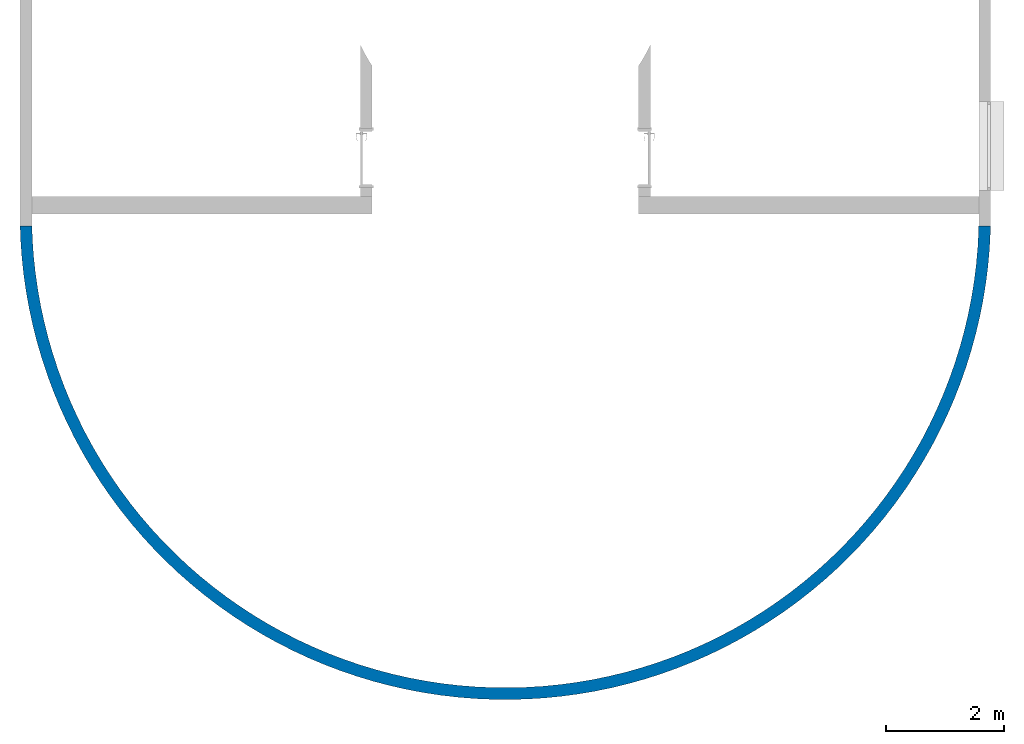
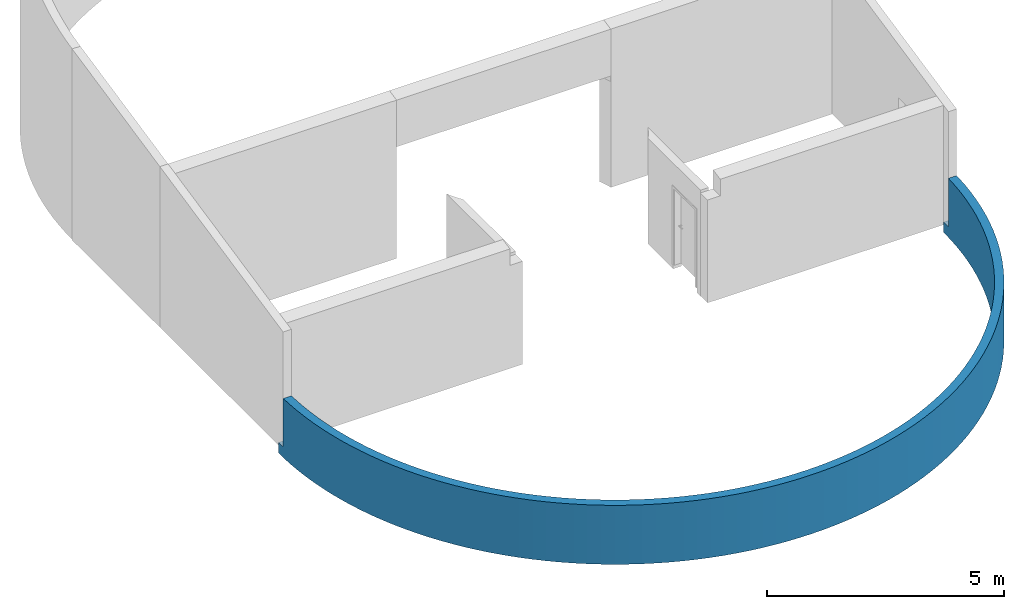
# One storey, part 3 of 7: 1 wall.
"""IFC4 building model written with IfcOpenShell, lengths in millimetres."""

from ifc_helpers import new_model, entity, si_unit, converted_unit, derived_unit, direction, frame, origin_with_axes, place, context, subcontext, project, spatial, polygons, material, constituent, constituent_set, type_object, element, save


model = new_model("IFC4")

# Units and contexts
model_context = context("Model", 3, precision=0.01, world=origin_with_axes(), true_north=direction((0.0, 1.0)))
body_context = subcontext(model_context, "Body", "Model", "MODEL_VIEW")
ifc_project = project(units=[si_unit("LENGTHUNIT", "METRE", prefix="MILLI"), si_unit("AREAUNIT", "SQUARE_METRE"), si_unit("VOLUMEUNIT", "CUBIC_METRE"), converted_unit("PLANEANGLEUNIT", "DEGREE", entity("IfcPlaneAngleMeasure", 0.0174532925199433), si_unit("PLANEANGLEUNIT", "RADIAN"), dimensions=[0, 0, 0, 0, 0, 0, 0]), converted_unit("TIMEUNIT", "Year", entity("IfcTimeMeasure", 31557600.0), si_unit("TIMEUNIT", "SECOND"), dimensions=[0, 0, 1, 0, 0, 0, 0]), si_unit("MASSUNIT", "GRAM", prefix="KILO"), si_unit("THERMODYNAMICTEMPERATUREUNIT", "DEGREE_CELSIUS"), si_unit("LUMINOUSINTENSITYUNIT", "LUMEN"), si_unit("ENERGYUNIT", "JOULE", prefix="MEGA"), derived_unit("THERMALCONDUCTANCEUNIT", [(si_unit("POWERUNIT", "WATT"), 1), (si_unit("LENGTHUNIT", "METRE"), -1), (si_unit("THERMODYNAMICTEMPERATUREUNIT", "KELVIN"), -1)]), derived_unit("SPECIFICHEATCAPACITYUNIT", [(si_unit("ENERGYUNIT", "JOULE"), 1), (si_unit("MASSUNIT", "GRAM", prefix="KILO"), -1), (si_unit("THERMODYNAMICTEMPERATUREUNIT", "KELVIN"), -1)]), derived_unit("MASSDENSITYUNIT", [(si_unit("MASSUNIT", "GRAM", prefix="KILO"), 1), (si_unit("VOLUMEUNIT", "CUBIC_METRE"), -1)])], contexts=[model_context])

# Site, building, storey
site_placement = place(None, origin_with_axes())
site = spatial("IfcSite", under=ifc_project, at=site_placement, Name="Exteriér", CompositionType="ELEMENT")
building_placement = place(site_placement, origin_with_axes())
building = spatial("IfcBuilding", under=site, at=building_placement, Name="Univerzitní lezecké centrum", CompositionType="ELEMENT")
storey_placement = place(building_placement, frame((0.0, 0.0, 9600.000000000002), z_axis=(0.0, 0.0, 1.0), x_axis=(1.0, 0.0, 0.0)))
storey = spatial("IfcBuildingStorey", under=building, at=storey_placement, Name="4.NP", CompositionType="ELEMENT", Elevation=9600.0)

# Wall
ifc_material = material(Name="Beton vyztužený - vnější svislé kce")
ifc_constituent = constituent(ifc_material, Name="Beton vyztužený - vnější svislé kce")
ifc_constituent_set = constituent_set(constituents=[ifc_constituent], Name="!Vnější betonová stěna 200 mm - atika")
wall_type = type_object("IfcWallType", Name="!Vnější betonová stěna 200 mm - atika 200", PredefinedType="NOTDEFINED")
wall_placement = place(storey_placement, frame((-5550.148351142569, -299.9999999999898, -320.0000000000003), z_axis=(0.0, 0.0, 1.0), x_axis=(0.0, -1.0, 0.0)))
element("IfcWall", 1, at=wall_placement, inside=storey, type_object=wall_type, material=ifc_constituent_set, Name="St01*", PredefinedType="NOTDEFINED", context=body_context, shape_type="Tessellation", body=[
    polygons([(425.8444740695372, 10.07993160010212, 1520.0), (425.8444740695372, 10.07993160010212, 0.0), (199.999999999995, 2.05948510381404, 0.0), (199.999999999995, 2.059485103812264, 1520.0), (709.1445868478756, 30.22709417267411, 1520.0), (709.1445868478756, 30.22709417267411, 0.0), (145.5579959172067, -199.9999999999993, 0.0), (142.0078008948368, 1.147407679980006e-05, 0.0), (199.9999999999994, 8.656680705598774e-06, 0.0), (436.4905859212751, -189.6680701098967, 0.0), (199.9999999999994, 8.656680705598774e-06, 269.0000000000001), (199.9999999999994, 8.656680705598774e-06, 1520.0), (436.4905859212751, -189.6680701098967, 1520.0), (199.9999999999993, -198.0665934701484, 1520.0), (726.8732015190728, -169.0172284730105, 1520.0), (991.5511835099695, 60.4161024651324, 1520.0), (991.5511835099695, 60.4161024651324, 0.0), (726.8732015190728, -169.0172284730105, 0.0), (0.0, -199.9999999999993, 0.0), (0.0, 0.0, 0.0), (142.0078008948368, 1.147407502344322e-05, 269.0000000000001), (199.9999999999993, -198.0665934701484, 269.0000000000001), (145.5579959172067, -200.0000000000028, 269.0000000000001), (1016.339963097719, -138.0734949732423, 1520.0), (1272.708434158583, 100.6089185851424, 1520.0), (1272.708434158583, 100.6089185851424, 0.0), (1016.339963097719, -138.0734949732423, 0.0), (-1.117589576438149e-06, -200.0000000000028, 269.0000000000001), (0.0, -199.9999999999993, 199.9999999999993), (0.0, 0.0, 199.9999999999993), (-1.117589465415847e-06, 0.0, 269.0000000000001), (1304.52614501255, -96.87585845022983, 1520.0), (1552.2620830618, 150.7548999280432, 1520.0), (1552.2620830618, 150.7548999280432, 0.0), (1304.52614501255, -96.87585845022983, 0.0), (1591.068635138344, -45.47622757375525, 1520.0), (1829.859895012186, 210.79086298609, 1520.0), (1829.859895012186, 210.79086298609, 0.0), (1591.068635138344, -45.47622757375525, 0.0), (1875.606392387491, 16.06063456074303, 1520.0), (2105.152099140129, 280.6411629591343, 1520.0), (2105.152099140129, 280.6411629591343, 0.0), (1875.606392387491, 16.06063456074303, 0.0), (2157.780901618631, 87.65719203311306, 1520.0), (2377.791829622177, 360.2177890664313, 1520.0), (2377.791829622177, 360.2177890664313, 0.0), (2157.780901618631, 87.65719203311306, 0.0), (2437.236625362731, 169.223233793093, 1520.0), (2647.435562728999, 449.4204754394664, 1520.0), (2647.435562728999, 449.4204754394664, 0.0), (2437.236625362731, 169.223233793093, 0.0), (2713.621451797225, 260.6559873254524, 1520.0), (2913.743549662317, 548.1368274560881, 1520.0), (2913.743549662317, 548.1368274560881, 0.0), (2713.621451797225, 260.6559873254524, 0.0), (2986.587138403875, 361.8402481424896, 1520.0), (3176.380244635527, 656.2424633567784, 1520.0), (3176.380244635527, 656.2424633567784, 0.0), (2986.587138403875, 361.8402481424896, 0.0), (3255.789750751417, 472.6485249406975, 1520.0), (3435.014727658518, 773.6011709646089, 1520.0), (3435.014727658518, 773.6011709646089, 0.0), (3255.789750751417, 472.6485249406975, 0.0), (3520.890095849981, 592.941200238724, 1520.0), (3689.321121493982, 900.0650793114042, 1520.0), (3689.321121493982, 900.0650793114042, 0.0), (3520.890095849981, 592.941200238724, 0.0), (3781.55414953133, 722.5667062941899, 1520.0), (3938.979002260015, 1035.474844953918, 1520.0), (3938.979002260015, 1035.474844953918, 0.0), (3781.55414953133, 722.5667062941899, 0.0), (4037.453477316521, 861.3617160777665, 1520.0), (4183.673803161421, 1179.659852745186, 1520.0), (4183.673803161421, 1179.659852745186, 0.0), (4037.453477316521, 861.3617160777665, 0.0), (4288.265648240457, 1009.151349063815, 1520.0), (4423.097210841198, 1332.438430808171, 1520.0), (4423.097210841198, 1332.438430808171, 0.0), (4288.265648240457, 1009.151349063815, 0.0), (4533.674641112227, 1165.749391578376, 1520.0), (4656.947553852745, 1493.618079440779, 1520.0), (4656.947553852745, 1493.618079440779, 0.0), (4533.674641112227, 1165.749391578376, 0.0), (4773.371242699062, 1330.958531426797, 1520.0), (4884.930182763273, 1662.995713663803, 1520.0), (4884.930182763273, 1662.995713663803, 0.0), (4773.371242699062, 1330.958531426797, 0.0), (5007.053437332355, 1504.570606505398, 1520.0), (5106.757841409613, 1840.357919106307, 1520.0), (5106.757841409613, 1840.357919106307, 0.0), (5007.053437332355, 1504.570606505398, 0.0), (5234.426787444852, 1686.366867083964, 1520.0), (5322.151028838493, 2025.481220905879, 1520.0), (5322.151028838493, 2025.481220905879, 0.0), (5234.426787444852, 1686.366867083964, 0.0), (5455.204804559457, 1876.118251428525, 1520.0), (5530.838351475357, 2218.132365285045, 1520.0), (5530.838351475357, 2218.132365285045, 0.0), (5455.204804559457, 1876.118251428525, 0.0), (5669.109310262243, 2073.585674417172, 1520.0), (5732.556865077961, 2418.068613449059, 1520.0), (5732.556865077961, 2418.068613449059, 0.0), (5669.109310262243, 2073.585674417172, 0.0), (5875.870786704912, 2278.520328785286, 1520.0), (5927.052406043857, 2625.038047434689, 1520.0), (5927.052406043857, 2625.038047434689, 0.0), (5875.870786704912, 2278.520328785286, 0.0), (6075.228716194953, 2490.663998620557, 1520.0), (6114.079911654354, 2838.779887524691, 1520.0), (6114.079911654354, 2838.779887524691, 0.0), (6075.228716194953, 2490.663998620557, 0.0), (6266.931909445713, 2709.749384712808, 1520.0), (6293.403728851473, 3059.024820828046, 1520.0), (6293.403728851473, 3059.024820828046, 0.0), (6266.931909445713, 2709.749384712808, 0.0), (6450.738822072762, 2935.500441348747, 1520.0), (6464.797911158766, 3285.495340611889, 1520.0), (6464.797911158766, 3285.495340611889, 0.0), (6450.738822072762, 2935.500441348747, 0.0), (6626.417858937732, 3167.632724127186, 1520.0), (6628.04650337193, 3517.906095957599, 1520.0), (6628.04650337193, 3517.906095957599, 0.0), (6626.417858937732, 3167.632724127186, 0.0), (6793.747665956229, 3405.853748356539, 1520.0), (6782.943813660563, 3755.964251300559, 1520.0), (6782.943813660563, 3755.964251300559, 0.0), (6793.747665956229, 3405.853748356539, 0.0), (6952.517409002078, 3649.863357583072, 1520.0), (6929.294672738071, 3999.369855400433, 1520.0), (6929.294672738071, 3999.369855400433, 0.0), (6952.517409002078, 3649.863357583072, 0.0), (7102.527039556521, 3899.354101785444, 1520.0), (7066.914679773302, 4247.816219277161, 1520.0), (7066.914679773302, 4247.816219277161, 0.0), (7102.527039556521, 3899.354101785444, 0.0), (7243.587546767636, 4154.01162475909, 1520.0), (7195.63043473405, 4500.990302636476, 1520.0), (7195.63043473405, 4500.990302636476, 0.0), (7243.587546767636, 4154.01162475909, 0.0), (7375.521195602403, 4413.515060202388, 1520.0), (7315.279756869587, 4758.573108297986, 1520.0), (7315.279756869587, 4758.573108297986, 0.0), (7375.521195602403, 4413.515060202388, 0.0), (7498.161750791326, 4677.537436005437, 1520.0), (7425.711889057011, 5020.240084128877, 1520.0), (7425.711889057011, 5020.240084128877, 0.0), (7498.161750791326, 4677.537436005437, 0.0), (7611.354686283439, 4945.7460862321, 1520.0), (7526.787687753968, 5285.661531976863, 1520.0), (7526.787687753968, 5285.661531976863, 0.0), (7611.354686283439, 4945.7460862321, 0.0), (7714.957379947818, 5217.803070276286, 1520.0), (7618.379798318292, 5554.503023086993, 1520.0), (7618.379798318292, 5554.503023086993, 0.0), (7714.957379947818, 5217.803070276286, 0.0), (7808.839293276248, 5493.365598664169, 1520.0), (7700.372815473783, 5826.425819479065, 1520.0), (7700.372815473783, 5826.425819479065, 0.0), (7808.839293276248, 5493.365598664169, 0.0), (7892.882135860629, 5772.086464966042, 1520.0), (7772.663428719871, 6101.087300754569, 1520.0), (7772.663428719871, 6101.087300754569, 0.0), (7892.882135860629, 5772.086464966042, 0.0), (7966.980014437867, 6053.614483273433, 1520.0), (7835.160552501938, 6378.141395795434, 1520.0), (7835.160552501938, 6378.141395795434, 0.0), (7966.980014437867, 6053.614483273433, 0.0), (8031.039566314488, 6337.594930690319, 1520.0), (7887.785440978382, 6657.239018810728, 1520.0), (7887.785440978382, 6657.239018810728, 0.0), (8031.039566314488, 6337.594930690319, 0.0), (8084.980077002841, 6623.669994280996, 1520.0), (7930.471787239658, 6938.028509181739, 1520.0), (7930.471787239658, 6938.028509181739, 0.0), (8084.980077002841, 6623.669994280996, 0.0), (8128.733581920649, 6911.479221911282, 1520.0), (7963.165806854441, 7220.15607455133, 1520.0), (7963.165806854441, 7220.15607455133, 0.0), (8128.733581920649, 6911.479221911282, 0.0), (8162.244952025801, 7200.659976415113, 1520.0), (7985.826305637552, 7503.266236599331, 1520.0), (7985.826305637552, 7503.266236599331, 0.0), (8162.244952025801, 7200.659976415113, 0.0), (8185.471963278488, 7490.847892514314, 1520.0), (7998.424731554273, 7787.002278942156, 1520.0), (7998.424731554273, 7787.002278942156, 0.0), (8185.471963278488, 7490.847892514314, 0.0), (8198.385349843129, 7781.677335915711, 1520.0), (8000.945210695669, 8071.006696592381, 1520.0), (8000.945210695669, 8071.006696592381, 0.0), (8198.385349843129, 7781.677335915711, 0.0), (8200.96884096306, 8072.78186400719, 1520.0), (7993.384567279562, 8354.921646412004, 1520.0), (7993.384567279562, 8354.921646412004, 0.0), (8200.96884096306, 8072.78186400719, 0.0), (8193.21918146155, 8363.794687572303, 1520.0), (7975.752327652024, 8638.389397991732, 1520.0), (7975.752327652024, 8638.389397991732, 0.0), (8193.21918146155, 8363.794687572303, 0.0), (8175.146135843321, 8654.349132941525, 1520.0), (7948.07070828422, 8921.052784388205, 1520.0), (7948.07070828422, 8921.052784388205, 0.0), (8175.146135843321, 8654.349132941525, 0.0), (8146.772475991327, 8944.079103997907, 1520.0), (7910.374587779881, 9202.555652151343, 1520.0), (7910.374587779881, 9202.555652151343, 0.0), (8146.772475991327, 8944.079103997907, 0.0), (8108.133952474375, 9232.619543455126, 1520.0), (7862.711462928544, 9482.5433100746, 1520.0), (7862.711462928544, 9482.5433100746, 0.0), (8108.133952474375, 9232.619543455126, 0.0), (8059.279249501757, 9519.606892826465, 1520.0), (7805.141388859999, 9760.662976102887, 1520.0), (7805.141388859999, 9760.662976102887, 0.0), (8059.279249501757, 9519.606892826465, 0.0), (8000.269923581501, 9804.67955050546, 1520.0), (7737.736903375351, 10036.56422183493, 1520.0), (7737.736903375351, 10036.56422183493, 0.0), (8000.269923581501, 9804.67955050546, 0.0), (7931.180325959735, 10087.47832738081, 1520.0), (7660.582935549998, 10309.89941406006, 1520.0), (7660.582935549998, 10309.89941406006, 0.0), (7931.180325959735, 10087.47832738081, 0.0), (7852.097508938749, 10367.64689941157, 1520.0), (7573.776698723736, 10580.32415277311, 1520.0), (7573.776698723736, 10580.32415277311, 0.0), (7852.097508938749, 10367.64689941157, 0.0), (7763.121116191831, 10644.83225659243, 1520.0), (7477.42756801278, 10847.49770511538, 1520.0), (7477.42756801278, 10847.49770511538, 0.0), (7763.121116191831, 10644.83225659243, 0.0), (7664.363257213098, 10918.68514774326, 1520.0), (7371.65694249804, 11111.08343469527, 1520.0), (7371.65694249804, 11111.08343469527, 0.0), (7664.363257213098, 10918.68514774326, 0.0), (7555.948366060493, 11188.86052056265, 1520.0), (7256.598092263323, 11370.74922574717, 1520.0), (7256.598092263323, 11370.74922574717, 0.0), (7555.948366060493, 11188.86052056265, 0.0), (7438.013044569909, 11455.01795639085, 1520.0), (7132.395990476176, 11626.1679015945, 1520.0), (7132.395990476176, 11626.1679015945, 0.0), (7438.013044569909, 11455.01795639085, 0.0), (7310.705890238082, 11716.82209913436, 1520.0), (6999.207130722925, 11877.0176368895, 1520.0), (6999.207130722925, 11877.0176368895, 0.0), (7310.705890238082, 11716.82209913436, 0.0), (7174.187308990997, 11973.94307781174, 1520.0), (6857.199329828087, 12122.98236311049, 1520.0), (6857.199329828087, 12122.98236311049, 0.0), (7174.187308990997, 11973.94307781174, 0.0), (7028.629313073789, 12226.05692218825, 1520.0), (6706.551516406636, 12363.75216680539, 1520.0), (6706.551516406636, 12363.75216680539, 0.0), (7028.629313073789, 12226.05692218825, 0.0), (6874.215304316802, 12472.84597097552, 1520.0), (6547.453505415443, 12599.02368008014, 1520.0), (6547.453505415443, 12599.02368008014, 0.0), (6874.215304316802, 12472.84597097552, 0.0), (6711.139843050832, 12713.99927208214, 1520.0), (6380.105758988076, 12828.50046283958, 1520.0), (6380.105758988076, 12828.50046283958, 0.0), (6711.139843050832, 12713.99927208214, 0.0), (6539.608402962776, 12949.21297441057, 1520.0), (6204.719133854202, 13051.89337629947, 1520.0), (6204.719133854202, 13051.89337629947, 0.0), (6539.608402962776, 12949.21297441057, 0.0), (6359.837112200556, 13178.19071070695, 1520.0), (6021.514615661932, 13268.92094729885, 1520.0), (6021.514615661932, 13268.92094729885, 0.0), (6359.837112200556, 13178.19071070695, 0.0), (6172.052481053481, 13400.64397098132, 1520.0), (5830.723040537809, 13479.30972295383, 1520.0), (5830.723040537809, 13479.30972295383, 0.0), (6172.052481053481, 13400.64397098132, 0.0), (5976.491116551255, 13616.29246602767, 1520.0), (5632.584804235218, 13682.79461520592, 1520.0), (5632.584804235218, 13682.79461520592, 0.0), (5976.491116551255, 13616.29246602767, 0.0), (5773.399424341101, 13824.86448058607, 1520.0), (5427.349559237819, 13879.11923483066, 1520.0), (5427.349559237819, 13879.11923483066, 0.0), (5773.399424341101, 13824.86448058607, 0.0), (5563.033298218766, 14026.09721570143, 1520.0), (5215.275900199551, 14068.03621448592, 1520.0), (5215.275900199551, 14068.03621448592, 0.0), (5563.033298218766, 14026.09721570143, 0.0), (5345.657797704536, 14219.73711984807, 1520.0), (4996.63103811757, 14249.30752039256, 1520.0), (4996.63103811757, 14249.30752039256, 0.0), (5345.657797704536, 14219.73711984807, 0.0), (5121.54681407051, 14405.54020840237, 1520.0), (4771.690463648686, 14422.70475225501, 1520.0), (4771.690463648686, 14422.70475225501, 0.0), (5121.54681407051, 14405.54020840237, 0.0), (4890.982725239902, 14583.27237106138, 1520.0), (4540.737599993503, 14588.00943104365, 1520.0), (4540.737599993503, 14588.00943104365, 0.0), (4890.982725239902, 14583.27237106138, 0.0), (4654.256039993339, 14752.70966681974, 1520.0), (4304.063445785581, 14745.01327427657, 1520.0), (4304.063445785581, 14745.01327427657, 0.0), (4654.256039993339, 14752.70966681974, 0.0), (4411.665031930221, 14913.63860613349, 1520.0), (4061.966208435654, 14893.51845845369, 1520.0), (4061.966208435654, 14893.51845845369, 0.0), (4411.665031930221, 14913.63860613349, 0.0), (4163.515363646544, 15065.85641991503, 1520.0), (3814.750928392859, 15033.33786831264, 1520.0), (3814.750928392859, 15033.33786831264, 0.0), (4163.515363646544, 15065.85641991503, 0.0), (3910.119701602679, 15209.17131502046, 1520.0), (3562.729094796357, 15164.29533259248, 1520.0), (3562.729094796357, 15164.29533259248, 0.0), (3910.119701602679, 15209.17131502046, 0.0), (3651.797322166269, 15343.40271590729, 1520.0), (3306.218253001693, 15286.22584600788, 1520.0), (3306.218253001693, 15286.22584600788, 0.0), (3651.797322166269, 15343.40271590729, 0.0), (3388.873709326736, 15468.38149215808, 1520.0), (3045.541604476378, 15398.97577715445, 1520.0), (3045.541604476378, 15398.97577715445, 0.0), (3388.873709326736, 15468.38149215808, 0.0), (3121.680144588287, 15583.95017158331, 1520.0), (2781.027599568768, 15502.40306208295, 1520.0), (2781.027599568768, 15502.40306208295, 0.0), (3121.680144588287, 15583.95017158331, 0.0), (2850.553289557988, 15689.96313863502, 1520.0), (2513.009523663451, 15596.37738329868, 1520.0), (2513.009523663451, 15596.37738329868, 0.0), (2850.553289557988, 15689.96313863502, 0.0), (2575.834761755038, 15786.28681788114, 1520.0), (2241.825077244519, 15680.78033396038, 1520.0), (2241.825077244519, 15680.78033396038, 0.0), (2575.834761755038, 15786.28681788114, 0.0), (2297.870704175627, 15872.79984230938, 1520.0), (1967.815950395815, 15755.50556707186, 1520.0), (1967.815950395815, 15755.50556707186, 0.0), (2297.870704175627, 15872.79984230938, 0.0), (2017.011349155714, 15949.39320624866, 1520.0), (1691.327392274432, 15820.4589294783, 1520.0), (1691.327392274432, 15820.4589294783, 0.0), (2017.011349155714, 15949.39320624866, 0.0), (1733.610577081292, 16015.97040271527, 1520.0), (1412.707776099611, 15875.55858049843, 1520.0), (1412.707776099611, 15875.55858049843, 0.0), (1733.610577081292, 16015.97040271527, 0.0), (1448.025470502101, 16072.44754501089, 1520.0), (1132.308160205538, 15920.73509504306, 1520.0), (1132.308160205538, 15920.73509504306, 0.0), (1448.025470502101, 16072.44754501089, 0.0), (1160.615864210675, 16118.75347241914, 1520.0), (850.4818457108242, 15955.93155109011, 1520.0), (850.4818457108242, 15955.93155109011, 0.0), (1160.615864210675, 16118.75347241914, 0.0), (871.743891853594, 16154.82983986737, 1520.0), (567.5839313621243, 15981.10360140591, 1520.0), (567.5839313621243, 15981.10360140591, 0.0), (871.743891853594, 16154.82983986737, 0.0), (581.7735296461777, 16180.63119144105, 1520.0), (283.9708661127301, 15996.21952942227, 1520.0), (283.9708661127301, 15996.21952942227, 0.0), (581.7735296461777, 16180.63119144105, 0.0), (291.0701377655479, 16196.12501765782, 1520.0), (200.0000000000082, 15997.33742363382, 1520.0), (200.0000000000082, 15997.33742363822, 0.0), (291.0701377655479, 16196.12501765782, 0.0), (200.0000000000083, 16197.33742363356, 1520.0), (200.0000000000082, 15999.99999999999, 1520.0), (200.0000000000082, 15999.99999999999, 0.0), (200.0000000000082, 15999.99999999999, 269.0000000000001), (0.0, 15999.99999999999, 0.0), (0.0, 16199.99999999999, 0.0), (0.0, 16199.99999999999, 199.9999999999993), (-1.117578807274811e-06, 16200.00000000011, 269.0000000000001), (200.0000000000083, 16197.33742362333, 269.0000000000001), (0.0, 15999.99999999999, 268.9999999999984), (0.0, 15999.99999999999, 199.9999999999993)], [[[1, 2, 3, 4]], [[2, 1, 5, 6]], [[7, 8, 9, 3, 2, 10]], [[9, 11, 12, 4, 3]], [[13, 1, 4, 12, 14]], [[1, 13, 15, 5]], [[6, 5, 16, 17]], [[10, 2, 6, 18]], [[7, 19, 20, 8]], [[11, 9, 8, 21]], [[7, 10, 13, 14, 22, 23]], [[22, 14, 12, 11]], [[13, 10, 18, 15]], [[5, 15, 24, 16]], [[17, 16, 25, 26]], [[18, 6, 17, 27]], [[28, 29, 19, 7, 23]], [[19, 29, 30, 20]], [[30, 31, 21, 8, 20]], [[23, 22, 11, 21, 31, 28]], [[15, 18, 27, 24]], [[16, 24, 32, 25]], [[26, 25, 33, 34]], [[27, 17, 26, 35]], [[28, 31, 30, 29]], [[24, 27, 35, 32]], [[25, 32, 36, 33]], [[34, 33, 37, 38]], [[35, 26, 34, 39]], [[32, 35, 39, 36]], [[33, 36, 40, 37]], [[38, 37, 41, 42]], [[39, 34, 38, 43]], [[36, 39, 43, 40]], [[37, 40, 44, 41]], [[42, 41, 45, 46]], [[43, 38, 42, 47]], [[40, 43, 47, 44]], [[41, 44, 48, 45]], [[46, 45, 49, 50]], [[47, 42, 46, 51]], [[44, 47, 51, 48]], [[45, 48, 52, 49]], [[50, 49, 53, 54]], [[51, 46, 50, 55]], [[48, 51, 55, 52]], [[49, 52, 56, 53]], [[54, 53, 57, 58]], [[55, 50, 54, 59]], [[52, 55, 59, 56]], [[53, 56, 60, 57]], [[58, 57, 61, 62]], [[59, 54, 58, 63]], [[56, 59, 63, 60]], [[57, 60, 64, 61]], [[62, 61, 65, 66]], [[63, 58, 62, 67]], [[60, 63, 67, 64]], [[61, 64, 68, 65]], [[66, 65, 69, 70]], [[67, 62, 66, 71]], [[64, 67, 71, 68]], [[65, 68, 72, 69]], [[70, 69, 73, 74]], [[71, 66, 70, 75]], [[68, 71, 75, 72]], [[69, 72, 76, 73]], [[74, 73, 77, 78]], [[75, 70, 74, 79]], [[72, 75, 79, 76]], [[73, 76, 80, 77]], [[78, 77, 81, 82]], [[79, 74, 78, 83]], [[76, 79, 83, 80]], [[77, 80, 84, 81]], [[82, 81, 85, 86]], [[83, 78, 82, 87]], [[80, 83, 87, 84]], [[81, 84, 88, 85]], [[86, 85, 89, 90]], [[87, 82, 86, 91]], [[84, 87, 91, 88]], [[85, 88, 92, 89]], [[90, 89, 93, 94]], [[91, 86, 90, 95]], [[88, 91, 95, 92]], [[89, 92, 96, 93]], [[94, 93, 97, 98]], [[95, 90, 94, 99]], [[92, 95, 99, 96]], [[93, 96, 100, 97]], [[98, 97, 101, 102]], [[99, 94, 98, 103]], [[96, 99, 103, 100]], [[97, 100, 104, 101]], [[102, 101, 105, 106]], [[103, 98, 102, 107]], [[100, 103, 107, 104]], [[101, 104, 108, 105]], [[106, 105, 109, 110]], [[107, 102, 106, 111]], [[104, 107, 111, 108]], [[105, 108, 112, 109]], [[110, 109, 113, 114]], [[111, 106, 110, 115]], [[108, 111, 115, 112]], [[109, 112, 116, 113]], [[114, 113, 117, 118]], [[115, 110, 114, 119]], [[112, 115, 119, 116]], [[113, 116, 120, 117]], [[118, 117, 121, 122]], [[119, 114, 118, 123]], [[116, 119, 123, 120]], [[117, 120, 124, 121]], [[122, 121, 125, 126]], [[123, 118, 122, 127]], [[120, 123, 127, 124]], [[121, 124, 128, 125]], [[126, 125, 129, 130]], [[127, 122, 126, 131]], [[124, 127, 131, 128]], [[125, 128, 132, 129]], [[130, 129, 133, 134]], [[131, 126, 130, 135]], [[128, 131, 135, 132]], [[129, 132, 136, 133]], [[134, 133, 137, 138]], [[135, 130, 134, 139]], [[132, 135, 139, 136]], [[133, 136, 140, 137]], [[138, 137, 141, 142]], [[139, 134, 138, 143]], [[136, 139, 143, 140]], [[137, 140, 144, 141]], [[142, 141, 145, 146]], [[143, 138, 142, 147]], [[140, 143, 147, 144]], [[141, 144, 148, 145]], [[146, 145, 149, 150]], [[147, 142, 146, 151]], [[144, 147, 151, 148]], [[145, 148, 152, 149]], [[150, 149, 153, 154]], [[151, 146, 150, 155]], [[148, 151, 155, 152]], [[149, 152, 156, 153]], [[154, 153, 157, 158]], [[155, 150, 154, 159]], [[152, 155, 159, 156]], [[153, 156, 160, 157]], [[158, 157, 161, 162]], [[159, 154, 158, 163]], [[156, 159, 163, 160]], [[157, 160, 164, 161]], [[162, 161, 165, 166]], [[163, 158, 162, 167]], [[160, 163, 167, 164]], [[161, 164, 168, 165]], [[166, 165, 169, 170]], [[167, 162, 166, 171]], [[164, 167, 171, 168]], [[165, 168, 172, 169]], [[170, 169, 173, 174]], [[171, 166, 170, 175]], [[168, 171, 175, 172]], [[169, 172, 176, 173]], [[174, 173, 177, 178]], [[175, 170, 174, 179]], [[172, 175, 179, 176]], [[173, 176, 180, 177]], [[178, 177, 181, 182]], [[179, 174, 178, 183]], [[176, 179, 183, 180]], [[177, 180, 184, 181]], [[182, 181, 185, 186]], [[183, 178, 182, 187]], [[180, 183, 187, 184]], [[181, 184, 188, 185]], [[186, 185, 189, 190]], [[187, 182, 186, 191]], [[184, 187, 191, 188]], [[185, 188, 192, 189]], [[190, 189, 193, 194]], [[191, 186, 190, 195]], [[188, 191, 195, 192]], [[189, 192, 196, 193]], [[194, 193, 197, 198]], [[195, 190, 194, 199]], [[192, 195, 199, 196]], [[193, 196, 200, 197]], [[198, 197, 201, 202]], [[199, 194, 198, 203]], [[196, 199, 203, 200]], [[197, 200, 204, 201]], [[202, 201, 205, 206]], [[203, 198, 202, 207]], [[200, 203, 207, 204]], [[201, 204, 208, 205]], [[206, 205, 209, 210]], [[207, 202, 206, 211]], [[204, 207, 211, 208]], [[205, 208, 212, 209]], [[210, 209, 213, 214]], [[211, 206, 210, 215]], [[208, 211, 215, 212]], [[209, 212, 216, 213]], [[214, 213, 217, 218]], [[215, 210, 214, 219]], [[212, 215, 219, 216]], [[213, 216, 220, 217]], [[218, 217, 221, 222]], [[219, 214, 218, 223]], [[216, 219, 223, 220]], [[217, 220, 224, 221]], [[222, 221, 225, 226]], [[223, 218, 222, 227]], [[220, 223, 227, 224]], [[221, 224, 228, 225]], [[226, 225, 229, 230]], [[227, 222, 226, 231]], [[224, 227, 231, 228]], [[225, 228, 232, 229]], [[230, 229, 233, 234]], [[231, 226, 230, 235]], [[228, 231, 235, 232]], [[229, 232, 236, 233]], [[234, 233, 237, 238]], [[235, 230, 234, 239]], [[232, 235, 239, 236]], [[233, 236, 240, 237]], [[238, 237, 241, 242]], [[239, 234, 238, 243]], [[236, 239, 243, 240]], [[237, 240, 244, 241]], [[242, 241, 245, 246]], [[243, 238, 242, 247]], [[240, 243, 247, 244]], [[241, 244, 248, 245]], [[246, 245, 249, 250]], [[247, 242, 246, 251]], [[244, 247, 251, 248]], [[245, 248, 252, 249]], [[250, 249, 253, 254]], [[251, 246, 250, 255]], [[248, 251, 255, 252]], [[249, 252, 256, 253]], [[254, 253, 257, 258]], [[255, 250, 254, 259]], [[252, 255, 259, 256]], [[253, 256, 260, 257]], [[258, 257, 261, 262]], [[259, 254, 258, 263]], [[256, 259, 263, 260]], [[257, 260, 264, 261]], [[262, 261, 265, 266]], [[263, 258, 262, 267]], [[260, 263, 267, 264]], [[261, 264, 268, 265]], [[266, 265, 269, 270]], [[267, 262, 266, 271]], [[264, 267, 271, 268]], [[265, 268, 272, 269]], [[270, 269, 273, 274]], [[271, 266, 270, 275]], [[268, 271, 275, 272]], [[269, 272, 276, 273]], [[274, 273, 277, 278]], [[275, 270, 274, 279]], [[272, 275, 279, 276]], [[273, 276, 280, 277]], [[278, 277, 281, 282]], [[279, 274, 278, 283]], [[276, 279, 283, 280]], [[277, 280, 284, 281]], [[282, 281, 285, 286]], [[283, 278, 282, 287]], [[280, 283, 287, 284]], [[281, 284, 288, 285]], [[286, 285, 289, 290]], [[287, 282, 286, 291]], [[284, 287, 291, 288]], [[285, 288, 292, 289]], [[290, 289, 293, 294]], [[291, 286, 290, 295]], [[288, 291, 295, 292]], [[289, 292, 296, 293]], [[294, 293, 297, 298]], [[295, 290, 294, 299]], [[292, 295, 299, 296]], [[293, 296, 300, 297]], [[298, 297, 301, 302]], [[299, 294, 298, 303]], [[296, 299, 303, 300]], [[297, 300, 304, 301]], [[302, 301, 305, 306]], [[303, 298, 302, 307]], [[300, 303, 307, 304]], [[301, 304, 308, 305]], [[306, 305, 309, 310]], [[307, 302, 306, 311]], [[304, 307, 311, 308]], [[305, 308, 312, 309]], [[310, 309, 313, 314]], [[311, 306, 310, 315]], [[308, 311, 315, 312]], [[309, 312, 316, 313]], [[314, 313, 317, 318]], [[315, 310, 314, 319]], [[312, 315, 319, 316]], [[313, 316, 320, 317]], [[318, 317, 321, 322]], [[319, 314, 318, 323]], [[316, 319, 323, 320]], [[317, 320, 324, 321]], [[322, 321, 325, 326]], [[323, 318, 322, 327]], [[320, 323, 327, 324]], [[321, 324, 328, 325]], [[326, 325, 329, 330]], [[327, 322, 326, 331]], [[324, 327, 331, 328]], [[325, 328, 332, 329]], [[330, 329, 333, 334]], [[331, 326, 330, 335]], [[328, 331, 335, 332]], [[329, 332, 336, 333]], [[334, 333, 337, 338]], [[335, 330, 334, 339]], [[332, 335, 339, 336]], [[333, 336, 340, 337]], [[338, 337, 341, 342]], [[339, 334, 338, 343]], [[336, 339, 343, 340]], [[337, 340, 344, 341]], [[342, 341, 345, 346]], [[343, 338, 342, 347]], [[340, 343, 347, 344]], [[341, 344, 348, 345]], [[346, 345, 349, 350]], [[347, 342, 346, 351]], [[344, 347, 351, 348]], [[345, 348, 352, 349]], [[350, 349, 353, 354]], [[351, 346, 350, 355]], [[348, 351, 355, 352]], [[349, 352, 356, 353]], [[354, 353, 357, 358]], [[355, 350, 354, 359]], [[352, 355, 359, 356]], [[353, 356, 360, 357]], [[358, 357, 361, 362]], [[359, 354, 358, 363]], [[356, 359, 363, 360]], [[357, 360, 364, 361]], [[362, 361, 365, 366]], [[363, 358, 362, 367]], [[360, 363, 367, 364]], [[364, 368, 369, 365, 361]], [[370, 366, 365, 369, 371]], [[362, 366, 370, 372, 373, 367]], [[367, 373, 374, 375, 376, 368, 364]], [[368, 376, 371, 369]], [[372, 370, 371, 377, 378]], [[374, 373, 372, 378]], [[375, 374, 378, 377]], [[376, 375, 377, 371]]], closed=True),
])

save(model, "model.ifc")
